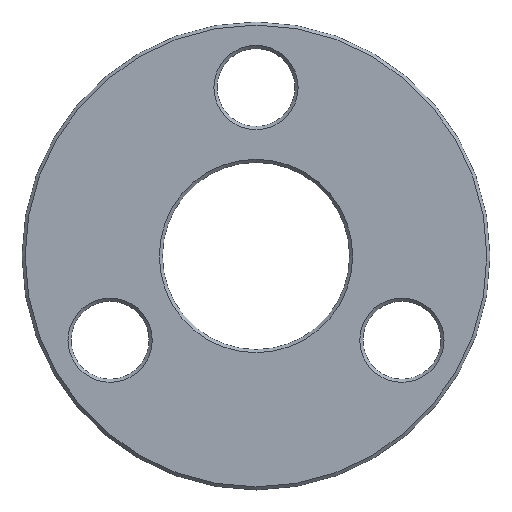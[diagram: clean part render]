
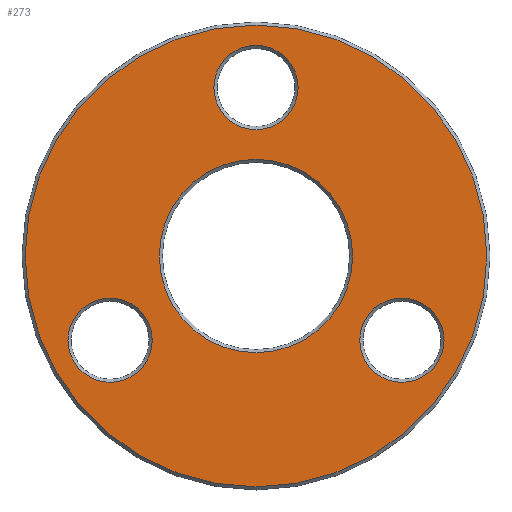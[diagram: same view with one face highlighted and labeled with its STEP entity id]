
A CAD part, top view. The second image highlights one B-rep face of the part: STEP entity #273.
In plain terms, the highlighted planar face has unit normal (0, 0, 1).
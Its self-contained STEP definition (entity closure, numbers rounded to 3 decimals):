
#24=FACE_BOUND('',#58,.T.);
#25=FACE_BOUND('',#59,.T.);
#26=FACE_BOUND('',#60,.T.);
#27=FACE_BOUND('',#61,.T.);
#29=PLANE('',#320);
#36=FACE_OUTER_BOUND('',#57,.T.);
#57=EDGE_LOOP('',(#208));
#58=EDGE_LOOP('',(#209));
#59=EDGE_LOOP('',(#210));
#60=EDGE_LOOP('',(#211));
#61=EDGE_LOOP('',(#212));
#111=CIRCLE('',#319,27.);
#112=CIRCLE('',#321,148.);
#113=CIRCLE('',#322,62.);
#114=CIRCLE('',#323,27.);
#115=CIRCLE('',#324,27.);
#133=VERTEX_POINT('',#467);
#134=VERTEX_POINT('',#471);
#135=VERTEX_POINT('',#473);
#136=VERTEX_POINT('',#475);
#137=VERTEX_POINT('',#477);
#159=EDGE_CURVE('',#133,#133,#111,.T.);
#161=EDGE_CURVE('',#134,#134,#112,.T.);
#162=EDGE_CURVE('',#135,#135,#113,.T.);
#163=EDGE_CURVE('',#136,#136,#114,.T.);
#164=EDGE_CURVE('',#137,#137,#115,.T.);
#208=ORIENTED_EDGE('',*,*,#161,.F.);
#209=ORIENTED_EDGE('',*,*,#162,.F.);
#210=ORIENTED_EDGE('',*,*,#163,.F.);
#211=ORIENTED_EDGE('',*,*,#164,.F.);
#212=ORIENTED_EDGE('',*,*,#159,.F.);
#273=ADVANCED_FACE('',(#36,#24,#25,#26,#27),#29,.T.);
#319=AXIS2_PLACEMENT_3D('',#468,#379,#380);
#320=AXIS2_PLACEMENT_3D('',#470,#382,#383);
#321=AXIS2_PLACEMENT_3D('',#472,#384,#385);
#322=AXIS2_PLACEMENT_3D('',#474,#386,#387);
#323=AXIS2_PLACEMENT_3D('',#476,#388,#389);
#324=AXIS2_PLACEMENT_3D('',#478,#390,#391);
#379=DIRECTION('center_axis',(0.,0.,1.));
#380=DIRECTION('ref_axis',(-1.,0.,0.));
#382=DIRECTION('center_axis',(0.,0.,1.));
#383=DIRECTION('ref_axis',(1.,0.,0.));
#384=DIRECTION('center_axis',(0.,0.,-1.));
#385=DIRECTION('ref_axis',(-1.,0.,0.));
#386=DIRECTION('center_axis',(0.,0.,1.));
#387=DIRECTION('ref_axis',(-1.,0.,0.));
#388=DIRECTION('center_axis',(0.,0.,1.));
#389=DIRECTION('ref_axis',(-1.,0.,0.));
#390=DIRECTION('center_axis',(0.,0.,1.));
#391=DIRECTION('ref_axis',(-1.,0.,0.));
#467=CARTESIAN_POINT('',(120.531,-54.,10.));
#468=CARTESIAN_POINT('Origin',(93.531,-54.,10.));
#470=CARTESIAN_POINT('Origin',(0.,0.,10.));
#471=CARTESIAN_POINT('',(148.,0.,10.));
#472=CARTESIAN_POINT('Origin',(0.,0.,10.));
#473=CARTESIAN_POINT('',(62.,0.,10.));
#474=CARTESIAN_POINT('Origin',(0.,0.,10.));
#475=CARTESIAN_POINT('',(27.,108.,10.));
#476=CARTESIAN_POINT('Origin',(0.,108.,10.));
#477=CARTESIAN_POINT('',(-66.531,-54.,10.));
#478=CARTESIAN_POINT('Origin',(-93.531,-54.,10.));
